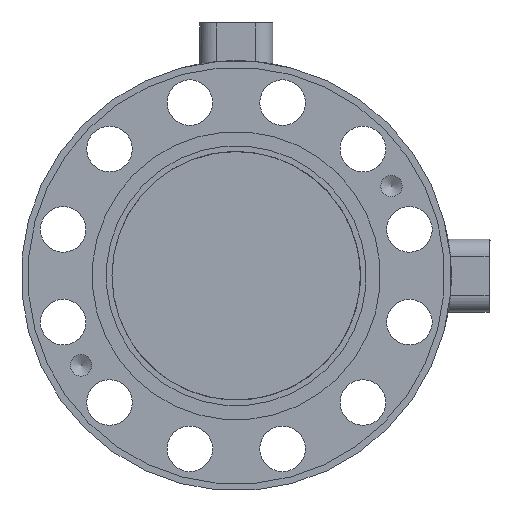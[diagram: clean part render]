
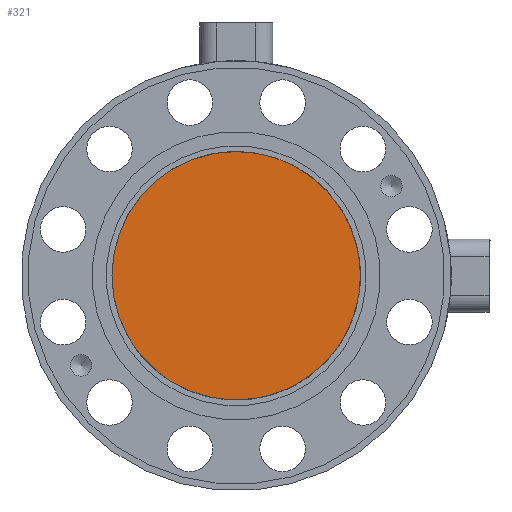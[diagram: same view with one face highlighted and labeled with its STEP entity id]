
A CAD part, front view. The second image highlights one B-rep face of the part: STEP entity #321.
In plain terms, the highlighted planar face has unit normal (0, -1, 0).
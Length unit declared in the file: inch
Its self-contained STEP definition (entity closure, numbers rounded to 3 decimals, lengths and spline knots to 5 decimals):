
#321 = ADVANCED_FACE ( 'NONE', ( #20727 ), #10380, .F. ) ;
#3481 = CARTESIAN_POINT ( 'NONE',  ( 0., -8.98012, 0. ) ) ;
#5522 = AXIS2_PLACEMENT_3D ( 'NONE', #3481, #19942, #5869 ) ;
#5741 = EDGE_LOOP ( 'NONE', ( #22651 ) ) ;
#5869 = DIRECTION ( 'NONE',  ( -1., 0., 0. ) ) ;
#10380 = PLANE ( 'NONE',  #20387 ) ;
#18843 = CARTESIAN_POINT ( 'NONE',  ( -2.7305, -8.98012, 0. ) ) ;
#19942 = DIRECTION ( 'NONE',  ( 0., -1., 0. ) ) ;
#20387 = AXIS2_PLACEMENT_3D ( 'NONE', #21907, #27135, #25262 ) ;
#20727 = FACE_OUTER_BOUND ( 'NONE', #5741, .T. ) ;
#21147 = CIRCLE ( 'NONE', #5522, 2.7305 ) ;
#21907 = CARTESIAN_POINT ( 'NONE',  ( 0., -8.98012, 0. ) ) ;
#22651 = ORIENTED_EDGE ( 'NONE', *, *, #27921, .T. ) ;
#25262 = DIRECTION ( 'NONE',  ( 1., 0., 0. ) ) ;
#25272 = VERTEX_POINT ( 'NONE', #18843 ) ;
#27135 = DIRECTION ( 'NONE',  ( 0., 1., 0. ) ) ;
#27921 = EDGE_CURVE ( 'NONE', #25272, #25272, #21147, .T. ) ;
